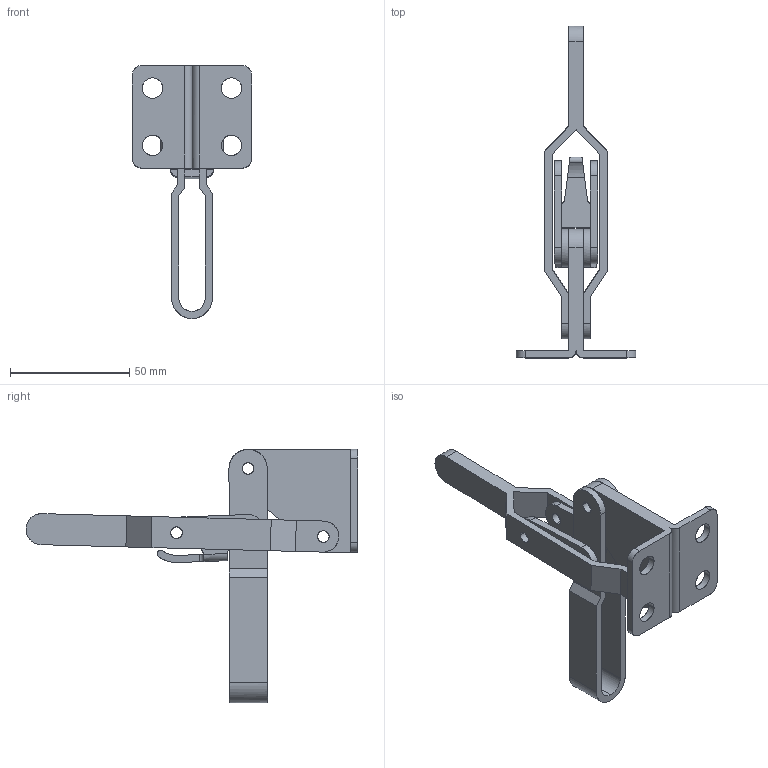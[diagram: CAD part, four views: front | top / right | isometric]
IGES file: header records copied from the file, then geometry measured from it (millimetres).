
Start section: Comment
Global section: file name: 11421.igs; native system:  By Spatial Corp.; preprocessor: XPlus GENERIC/IGES 3.0; author: Author; organization: Title; date: 20050407.114624; units: inch
Bounding box: 50 x 138.96 x 106.01 mm (x, y, z)
Surface area: 28199.5 mm2 (no closed solid volume)
Topology: 0 solids, 0 shells, 138 faces, 764 edges, 764 vertices
Faces by surface type: bspline 138
